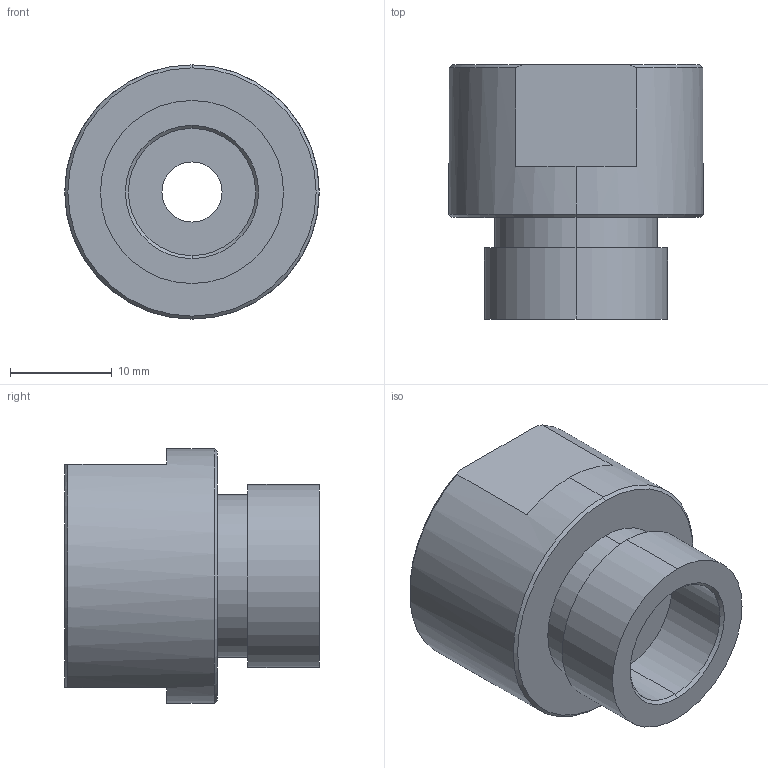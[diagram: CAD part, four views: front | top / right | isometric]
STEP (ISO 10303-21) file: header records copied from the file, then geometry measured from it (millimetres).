
FILE_DESCRIPTION (( 'STEP AP203' ), '1' );
FILE_NAME ('125MO-5.9.STEP', '2022-04-13T06:55:22', ( '' ), ( '' ), 'SwSTEP 2.0', 'SolidWorks 2015', '' );
FILE_SCHEMA (( 'CONFIG_CONTROL_DESIGN' ));
Length unit declared in the file: millimetre
Products named in the file (2): 125MO-5.9
Bounding box: 25 x 25 x 25 mm (x, y, z)
Volume: 8148.2 mm3; surface area: 3326.7 mm2
Topology: 1 solids, 1 shells, 25 faces, 56 edges, 36 vertices
Faces by surface type: cylinder 10, plane 9, cone 6
Entity records: 871 total; most frequent: DIRECTION 136, CARTESIAN_POINT 131, ORIENTED_EDGE 112, AXIS2_PLACEMENT_3D 57, EDGE_CURVE 56, VERTEX_POINT 36, CIRCLE 30, EDGE_LOOP 30
